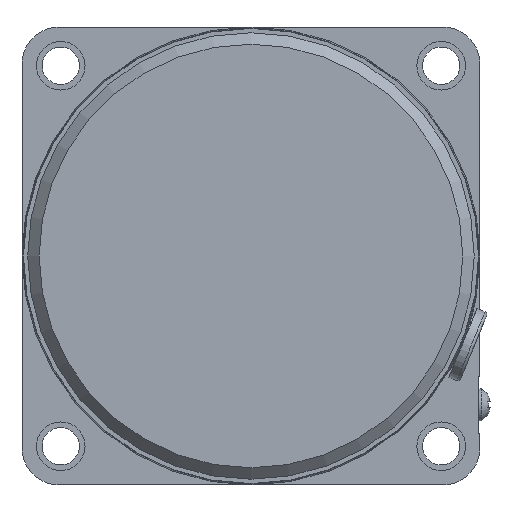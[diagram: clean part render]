
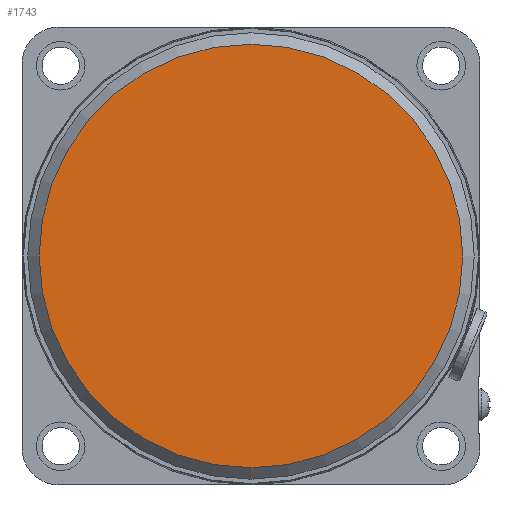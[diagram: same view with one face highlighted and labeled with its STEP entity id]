
A CAD part, left-side view. The second image highlights one B-rep face of the part: STEP entity #1743.
In plain terms, the highlighted planar face has unit normal (-1, 0, 0).
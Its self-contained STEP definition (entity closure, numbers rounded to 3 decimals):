
#131=FACE_OUTER_BOUND('',#238,.T.);
#238=EDGE_LOOP('',(#1183));
#638=CIRCLE('',#1870,37.);
#734=VERTEX_POINT('',#2672);
#913=EDGE_CURVE('',#734,#734,#638,.T.);
#1183=ORIENTED_EDGE('',*,*,#913,.F.);
#1568=PLANE('',#1869);
#1743=ADVANCED_FACE('',(#131),#1568,.T.);
#1869=AXIS2_PLACEMENT_3D('',#2671,#2116,#2117);
#1870=AXIS2_PLACEMENT_3D('',#2673,#2118,#2119);
#2116=DIRECTION('center_axis',(-1.,0.,0.));
#2117=DIRECTION('ref_axis',(0.,0.,1.));
#2118=DIRECTION('center_axis',(1.,0.,0.));
#2119=DIRECTION('ref_axis',(0.,1.,0.));
#2671=CARTESIAN_POINT('Origin',(0.,18.5,0.));
#2672=CARTESIAN_POINT('',(0.,37.,0.));
#2673=CARTESIAN_POINT('Origin',(0.,0.,
0.));
